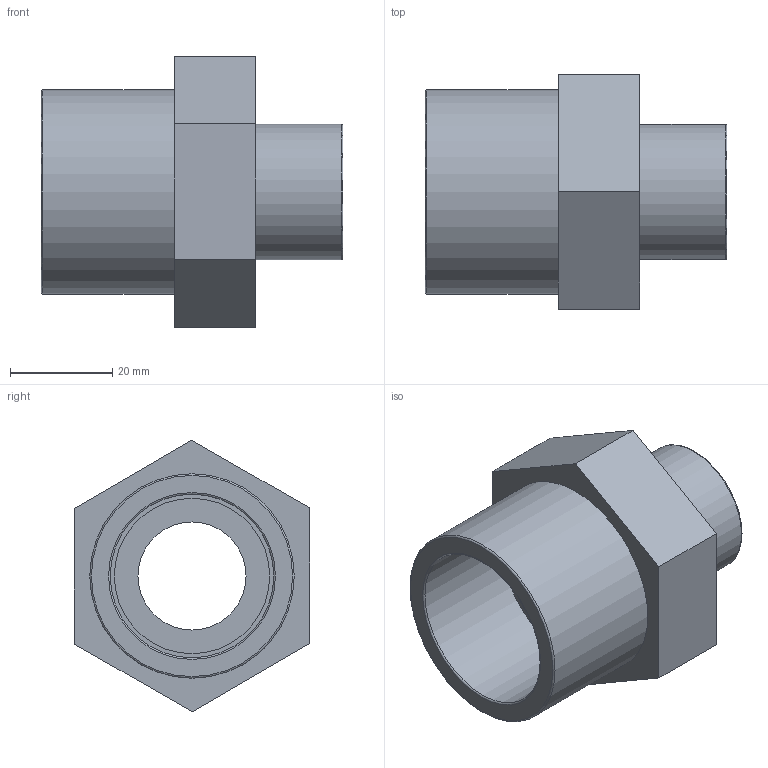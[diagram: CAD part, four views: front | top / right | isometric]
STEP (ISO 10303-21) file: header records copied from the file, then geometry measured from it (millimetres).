
FILE_DESCRIPTION(/* description */ ('PLASSON BUSHING ADAP. THR-CE 32(40)-3/4"'),/* implementation_level */ '2;1');
FILE_NAME(/* name */ 'C:\Dropbox\KIMPROJECTS-Inventor\99-16-3568-Processing\PVC Catalog 2017\052202\052202032007.ipt.stp',/* time_stamp */ '2017-12-07T16:02:34+02:00',/* author */ ('KIM'),/* organization */ (''),/* preprocessor_version */ 'ST-DEVELOPER v15.6',/* originating_system */ 'Autodesk Inventor 2015',/* authorisation */ '');
FILE_SCHEMA (('AUTOMOTIVE_DESIGN { 1 0 10303 214 3 1 1 }'));
Length unit declared in the file: millimetre
Products named in the file (1): 052202032007
Bounding box: 59 x 46.1 x 53.12 mm (x, y, z)
Volume: 34407.8 mm3; surface area: 15292.3 mm2
Topology: 1 solids, 1 shells, 21 faces, 41 edges, 26 vertices
Faces by surface type: plane 12, cylinder 5, torus 4
Full cylindrical faces by diameter (mm): 21.153 x1, 26.441 x1, 30.4 x1, 32 x1, 40 x1
Entity records: 520 total; most frequent: DIRECTION 90, CARTESIAN_POINT 80, ORIENTED_EDGE 64, EDGE_LOOP 36, AXIS2_PLACEMENT_3D 36, EDGE_CURVE 32, VERTEX_POINT 26, FACE_OUTER_BOUND 21
